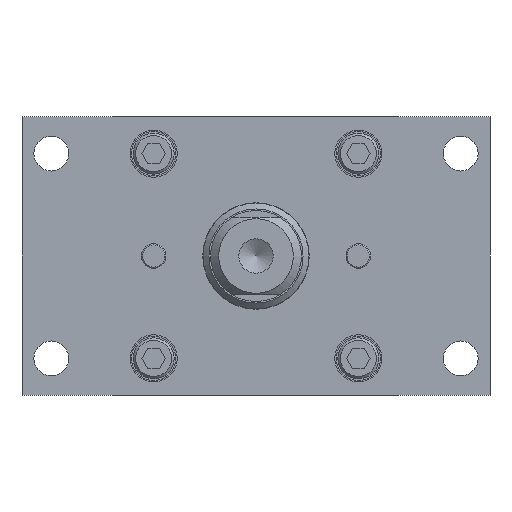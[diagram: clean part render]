
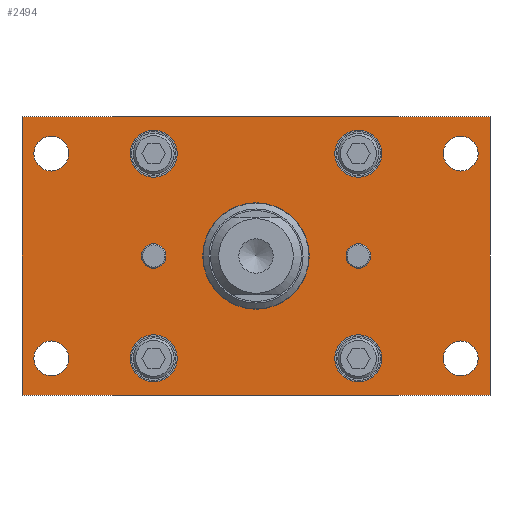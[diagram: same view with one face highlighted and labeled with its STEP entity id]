
A CAD part, front view. The second image highlights one B-rep face of the part: STEP entity #2494.
In plain terms, the highlighted planar face has unit normal (0, -1, 0) as drawn and (0, 0, -1) by its records, which use the part's own axes.
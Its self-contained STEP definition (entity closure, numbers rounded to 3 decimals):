
#144=FACE_BOUND('',#520,.T.);
#145=FACE_BOUND('',#521,.T.);
#146=FACE_BOUND('',#522,.T.);
#147=FACE_BOUND('',#523,.T.);
#148=FACE_BOUND('',#524,.T.);
#149=FACE_BOUND('',#525,.T.);
#150=FACE_BOUND('',#526,.T.);
#151=FACE_BOUND('',#527,.T.);
#152=FACE_BOUND('',#528,.T.);
#153=FACE_BOUND('',#529,.T.);
#154=FACE_BOUND('',#530,.T.);
#226=PLANE('',#2980);
#350=FACE_OUTER_BOUND('',#519,.T.);
#519=EDGE_LOOP('',(#2037,#2038,#2039,#2040));
#520=EDGE_LOOP('',(#2041));
#521=EDGE_LOOP('',(#2042,#2043));
#522=EDGE_LOOP('',(#2044,#2045));
#523=EDGE_LOOP('',(#2046,#2047));
#524=EDGE_LOOP('',(#2048,#2049));
#525=EDGE_LOOP('',(#2050,#2051));
#526=EDGE_LOOP('',(#2052,#2053));
#527=EDGE_LOOP('',(#2054,#2055));
#528=EDGE_LOOP('',(#2056,#2057));
#529=EDGE_LOOP('',(#2058,#2059));
#530=EDGE_LOOP('',(#2060,#2061));
#691=LINE('',#4407,#830);
#695=LINE('',#4415,#834);
#698=LINE('',#4421,#837);
#701=LINE('',#4426,#840);
#830=VECTOR('',#3602,10.);
#834=VECTOR('',#3608,10.);
#837=VECTOR('',#3613,10.);
#840=VECTOR('',#3618,10.);
#945=CIRCLE('',#2897,12.992);
#949=CIRCLE('',#2903,3.);
#950=CIRCLE('',#2904,3.);
#952=CIRCLE('',#2907,3.);
#953=CIRCLE('',#2908,3.);
#960=CIRCLE('',#2918,4.25);
#961=CIRCLE('',#2919,4.25);
#963=CIRCLE('',#2922,4.25);
#964=CIRCLE('',#2923,4.25);
#966=CIRCLE('',#2926,4.25);
#967=CIRCLE('',#2927,4.25);
#969=CIRCLE('',#2930,4.25);
#970=CIRCLE('',#2931,4.25);
#978=CIRCLE('',#2944,5.75);
#979=CIRCLE('',#2945,5.75);
#984=CIRCLE('',#2953,5.75);
#985=CIRCLE('',#2954,5.75);
#990=CIRCLE('',#2962,5.75);
#991=CIRCLE('',#2963,5.75);
#996=CIRCLE('',#2971,5.75);
#997=CIRCLE('',#2972,5.75);
#1166=VERTEX_POINT('',#4254);
#1170=VERTEX_POINT('',#4265);
#1171=VERTEX_POINT('',#4266);
#1173=VERTEX_POINT('',#4273);
#1174=VERTEX_POINT('',#4274);
#1181=VERTEX_POINT('',#4294);
#1182=VERTEX_POINT('',#4295);
#1184=VERTEX_POINT('',#4302);
#1185=VERTEX_POINT('',#4303);
#1187=VERTEX_POINT('',#4310);
#1188=VERTEX_POINT('',#4311);
#1190=VERTEX_POINT('',#4318);
#1191=VERTEX_POINT('',#4319);
#1199=VERTEX_POINT('',#4344);
#1200=VERTEX_POINT('',#4345);
#1205=VERTEX_POINT('',#4361);
#1206=VERTEX_POINT('',#4362);
#1211=VERTEX_POINT('',#4378);
#1212=VERTEX_POINT('',#4379);
#1217=VERTEX_POINT('',#4395);
#1218=VERTEX_POINT('',#4396);
#1220=VERTEX_POINT('',#4405);
#1221=VERTEX_POINT('',#4406);
#1224=VERTEX_POINT('',#4414);
#1226=VERTEX_POINT('',#4420);
#1449=EDGE_CURVE('',#1166,#1166,#945,.T.);
#1454=EDGE_CURVE('',#1170,#1171,#949,.T.);
#1455=EDGE_CURVE('',#1171,#1170,#950,.T.);
#1458=EDGE_CURVE('',#1173,#1174,#952,.T.);
#1459=EDGE_CURVE('',#1174,#1173,#953,.T.);
#1468=EDGE_CURVE('',#1181,#1182,#960,.T.);
#1469=EDGE_CURVE('',#1182,#1181,#961,.T.);
#1472=EDGE_CURVE('',#1184,#1185,#963,.T.);
#1473=EDGE_CURVE('',#1185,#1184,#964,.T.);
#1476=EDGE_CURVE('',#1187,#1188,#966,.T.);
#1477=EDGE_CURVE('',#1188,#1187,#967,.T.);
#1480=EDGE_CURVE('',#1190,#1191,#969,.T.);
#1481=EDGE_CURVE('',#1191,#1190,#970,.T.);
#1492=EDGE_CURVE('',#1199,#1200,#978,.T.);
#1493=EDGE_CURVE('',#1200,#1199,#979,.T.);
#1500=EDGE_CURVE('',#1205,#1206,#984,.T.);
#1501=EDGE_CURVE('',#1206,#1205,#985,.T.);
#1508=EDGE_CURVE('',#1211,#1212,#990,.T.);
#1509=EDGE_CURVE('',#1212,#1211,#991,.T.);
#1516=EDGE_CURVE('',#1217,#1218,#996,.T.);
#1517=EDGE_CURVE('',#1218,#1217,#997,.T.);
#1521=EDGE_CURVE('',#1220,#1221,#691,.T.);
#1525=EDGE_CURVE('',#1224,#1220,#695,.T.);
#1528=EDGE_CURVE('',#1226,#1224,#698,.T.);
#1531=EDGE_CURVE('',#1221,#1226,#701,.T.);
#2037=ORIENTED_EDGE('',*,*,#1531,.F.);
#2038=ORIENTED_EDGE('',*,*,#1521,.F.);
#2039=ORIENTED_EDGE('',*,*,#1525,.F.);
#2040=ORIENTED_EDGE('',*,*,#1528,.F.);
#2041=ORIENTED_EDGE('',*,*,#1449,.T.);
#2042=ORIENTED_EDGE('',*,*,#1454,.T.);
#2043=ORIENTED_EDGE('',*,*,#1455,.T.);
#2044=ORIENTED_EDGE('',*,*,#1458,.T.);
#2045=ORIENTED_EDGE('',*,*,#1459,.T.);
#2046=ORIENTED_EDGE('',*,*,#1468,.T.);
#2047=ORIENTED_EDGE('',*,*,#1469,.T.);
#2048=ORIENTED_EDGE('',*,*,#1472,.T.);
#2049=ORIENTED_EDGE('',*,*,#1473,.T.);
#2050=ORIENTED_EDGE('',*,*,#1476,.T.);
#2051=ORIENTED_EDGE('',*,*,#1477,.T.);
#2052=ORIENTED_EDGE('',*,*,#1480,.T.);
#2053=ORIENTED_EDGE('',*,*,#1481,.T.);
#2054=ORIENTED_EDGE('',*,*,#1492,.T.);
#2055=ORIENTED_EDGE('',*,*,#1493,.T.);
#2056=ORIENTED_EDGE('',*,*,#1500,.T.);
#2057=ORIENTED_EDGE('',*,*,#1501,.T.);
#2058=ORIENTED_EDGE('',*,*,#1508,.T.);
#2059=ORIENTED_EDGE('',*,*,#1509,.T.);
#2060=ORIENTED_EDGE('',*,*,#1516,.T.);
#2061=ORIENTED_EDGE('',*,*,#1517,.T.);
#2494=ADVANCED_FACE('',(#350,#144,#145,#146,#147,#148,#149,#150,#151,#152,
#153,#154),#226,.F.);
#2897=AXIS2_PLACEMENT_3D('',#4255,#3426,#3427);
#2903=AXIS2_PLACEMENT_3D('',#4267,#3439,#3440);
#2904=AXIS2_PLACEMENT_3D('',#4268,#3441,#3442);
#2907=AXIS2_PLACEMENT_3D('',#4275,#3448,#3449);
#2908=AXIS2_PLACEMENT_3D('',#4276,#3450,#3451);
#2918=AXIS2_PLACEMENT_3D('',#4296,#3472,#3473);
#2919=AXIS2_PLACEMENT_3D('',#4297,#3474,#3475);
#2922=AXIS2_PLACEMENT_3D('',#4304,#3481,#3482);
#2923=AXIS2_PLACEMENT_3D('',#4305,#3483,#3484);
#2926=AXIS2_PLACEMENT_3D('',#4312,#3490,#3491);
#2927=AXIS2_PLACEMENT_3D('',#4313,#3492,#3493);
#2930=AXIS2_PLACEMENT_3D('',#4320,#3499,#3500);
#2931=AXIS2_PLACEMENT_3D('',#4321,#3501,#3502);
#2944=AXIS2_PLACEMENT_3D('',#4346,#3530,#3531);
#2945=AXIS2_PLACEMENT_3D('',#4347,#3532,#3533);
#2953=AXIS2_PLACEMENT_3D('',#4363,#3550,#3551);
#2954=AXIS2_PLACEMENT_3D('',#4364,#3552,#3553);
#2962=AXIS2_PLACEMENT_3D('',#4380,#3570,#3571);
#2963=AXIS2_PLACEMENT_3D('',#4381,#3572,#3573);
#2971=AXIS2_PLACEMENT_3D('',#4397,#3590,#3591);
#2972=AXIS2_PLACEMENT_3D('',#4398,#3592,#3593);
#2980=AXIS2_PLACEMENT_3D('',#4429,#3622,#3623);
#3426=DIRECTION('center_axis',(0.,0.,1.));
#3427=DIRECTION('ref_axis',(1.,0.,0.));
#3439=DIRECTION('center_axis',(0.,0.,1.));
#3440=DIRECTION('ref_axis',(-1.,0.,0.));
#3441=DIRECTION('center_axis',(0.,0.,1.));
#3442=DIRECTION('ref_axis',(-1.,0.,0.));
#3448=DIRECTION('center_axis',(0.,0.,1.));
#3449=DIRECTION('ref_axis',(-1.,0.,0.));
#3450=DIRECTION('center_axis',(0.,0.,1.));
#3451=DIRECTION('ref_axis',(-1.,0.,0.));
#3472=DIRECTION('center_axis',(0.,0.,1.));
#3473=DIRECTION('ref_axis',(-1.,0.,0.));
#3474=DIRECTION('center_axis',(0.,0.,1.));
#3475=DIRECTION('ref_axis',(-1.,0.,0.));
#3481=DIRECTION('center_axis',(0.,0.,1.));
#3482=DIRECTION('ref_axis',(-1.,0.,0.));
#3483=DIRECTION('center_axis',(0.,0.,1.));
#3484=DIRECTION('ref_axis',(-1.,0.,0.));
#3490=DIRECTION('center_axis',(0.,0.,1.));
#3491=DIRECTION('ref_axis',(-1.,0.,0.));
#3492=DIRECTION('center_axis',(0.,0.,1.));
#3493=DIRECTION('ref_axis',(-1.,0.,0.));
#3499=DIRECTION('center_axis',(0.,0.,1.));
#3500=DIRECTION('ref_axis',(-1.,0.,0.));
#3501=DIRECTION('center_axis',(0.,0.,1.));
#3502=DIRECTION('ref_axis',(-1.,0.,0.));
#3530=DIRECTION('center_axis',(0.,0.,1.));
#3531=DIRECTION('ref_axis',(-1.,0.,0.));
#3532=DIRECTION('center_axis',(0.,0.,1.));
#3533=DIRECTION('ref_axis',(-1.,0.,0.));
#3550=DIRECTION('center_axis',(0.,0.,1.));
#3551=DIRECTION('ref_axis',(-1.,0.,0.));
#3552=DIRECTION('center_axis',(0.,0.,1.));
#3553=DIRECTION('ref_axis',(-1.,0.,0.));
#3570=DIRECTION('center_axis',(0.,0.,1.));
#3571=DIRECTION('ref_axis',(-1.,0.,0.));
#3572=DIRECTION('center_axis',(0.,0.,1.));
#3573=DIRECTION('ref_axis',(-1.,0.,0.));
#3590=DIRECTION('center_axis',(0.,0.,1.));
#3591=DIRECTION('ref_axis',(-1.,0.,0.));
#3592=DIRECTION('center_axis',(0.,0.,1.));
#3593=DIRECTION('ref_axis',(-1.,0.,0.));
#3602=DIRECTION('',(-1.,0.,0.));
#3608=DIRECTION('',(0.,1.,0.));
#3613=DIRECTION('',(1.,0.,0.));
#3618=DIRECTION('',(0.,-1.,0.));
#3622=DIRECTION('center_axis',(0.,0.,1.));
#3623=DIRECTION('ref_axis',(1.,0.,0.));
#4254=CARTESIAN_POINT('',(-12.992,0.,0.));
#4255=CARTESIAN_POINT('Origin',(0.,0.,0.));
#4265=CARTESIAN_POINT('',(-28.,0.,0.));
#4266=CARTESIAN_POINT('',(-22.,0.,0.));
#4267=CARTESIAN_POINT('Origin',(-25.,0.,0.));
#4268=CARTESIAN_POINT('Origin',(-25.,0.,0.));
#4273=CARTESIAN_POINT('',(22.,0.,0.));
#4274=CARTESIAN_POINT('',(28.,0.,0.));
#4275=CARTESIAN_POINT('Origin',(25.,0.,0.));
#4276=CARTESIAN_POINT('Origin',(25.,0.,0.));
#4294=CARTESIAN_POINT('',(45.75,25.,0.));
#4295=CARTESIAN_POINT('',(54.25,25.,0.));
#4296=CARTESIAN_POINT('Origin',(50.,25.,0.));
#4297=CARTESIAN_POINT('Origin',(50.,25.,0.));
#4302=CARTESIAN_POINT('',(-54.25,-25.,0.));
#4303=CARTESIAN_POINT('',(-45.75,-25.,0.));
#4304=CARTESIAN_POINT('Origin',(-50.,-25.,0.));
#4305=CARTESIAN_POINT('Origin',(-50.,-25.,0.));
#4310=CARTESIAN_POINT('',(-54.25,25.,0.));
#4311=CARTESIAN_POINT('',(-45.75,25.,0.));
#4312=CARTESIAN_POINT('Origin',(-50.,25.,0.));
#4313=CARTESIAN_POINT('Origin',(-50.,25.,0.));
#4318=CARTESIAN_POINT('',(45.75,-25.,0.));
#4319=CARTESIAN_POINT('',(54.25,-25.,0.));
#4320=CARTESIAN_POINT('Origin',(50.,-25.,0.));
#4321=CARTESIAN_POINT('Origin',(50.,-25.,0.));
#4344=CARTESIAN_POINT('',(19.25,25.,0.));
#4345=CARTESIAN_POINT('',(30.75,25.,0.));
#4346=CARTESIAN_POINT('Origin',(25.,25.,0.));
#4347=CARTESIAN_POINT('Origin',(25.,25.,0.));
#4361=CARTESIAN_POINT('',(-30.75,-25.,0.));
#4362=CARTESIAN_POINT('',(-19.25,-25.,0.));
#4363=CARTESIAN_POINT('Origin',(-25.,-25.,0.));
#4364=CARTESIAN_POINT('Origin',(-25.,-25.,0.));
#4378=CARTESIAN_POINT('',(19.25,-25.,0.));
#4379=CARTESIAN_POINT('',(30.75,-25.,0.));
#4380=CARTESIAN_POINT('Origin',(25.,-25.,0.));
#4381=CARTESIAN_POINT('Origin',(25.,-25.,0.));
#4395=CARTESIAN_POINT('',(-30.75,25.,0.));
#4396=CARTESIAN_POINT('',(-19.25,25.,0.));
#4397=CARTESIAN_POINT('Origin',(-25.,25.,0.));
#4398=CARTESIAN_POINT('Origin',(-25.,25.,0.));
#4405=CARTESIAN_POINT('',(57.15,34.,0.));
#4406=CARTESIAN_POINT('',(-57.15,34.,0.));
#4407=CARTESIAN_POINT('',(57.15,34.,0.));
#4414=CARTESIAN_POINT('',(57.15,-34.,0.));
#4415=CARTESIAN_POINT('',(57.15,-34.,0.));
#4420=CARTESIAN_POINT('',(-57.15,-34.,0.));
#4421=CARTESIAN_POINT('',(-57.15,-34.,0.));
#4426=CARTESIAN_POINT('',(-57.15,34.,0.));
#4429=CARTESIAN_POINT('Origin',(0.,0.,
0.));
